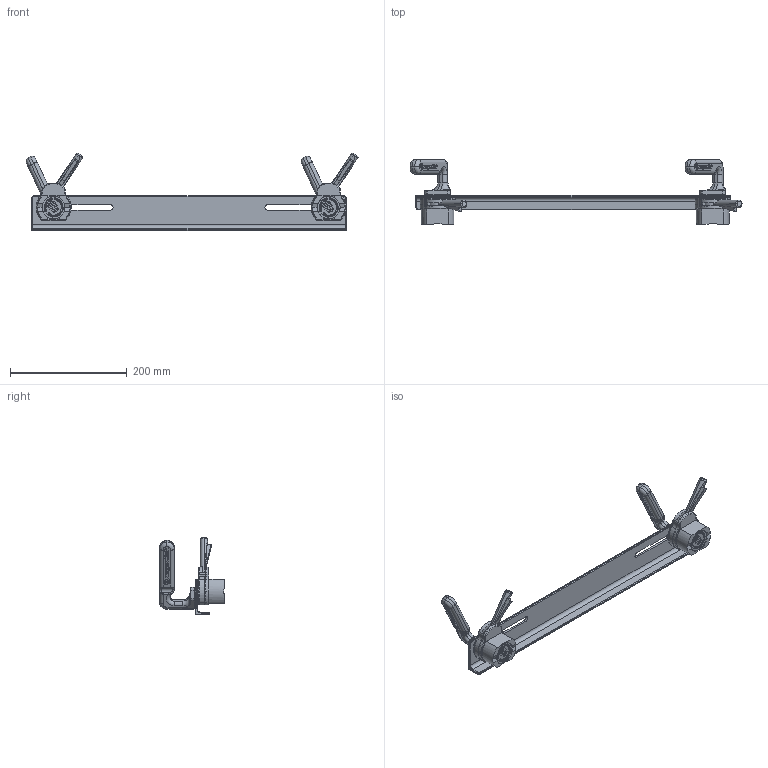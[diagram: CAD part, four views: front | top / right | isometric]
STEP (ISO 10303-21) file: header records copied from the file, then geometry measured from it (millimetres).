
FILE_DESCRIPTION (( 'STEP AP203' ), '1' );
FILE_NAME ('8000821_p.STEP', '2015-03-26T13:39:55', ( '' ), ( '' ), 'SwSTEP 2.0', 'SolidWorks 2013', '' );
FILE_SCHEMA (( 'CONFIG_CONTROL_DESIGN' ));
Length unit declared in the file: millimetre
Products named in the file (1): 8000821_p
Bounding box: 569.66 x 111.35 x 133.11 mm (x, y, z)
Surface area: 172625.1 mm2 (no closed solid volume)
Topology: 0 solids, 52 shells, 1061 faces, 5891 edges, 4691 vertices
Faces by surface type: plane 505, cylinder 231, bspline 191, torus 98, cone 36
Entity records: 74952 total; most frequent: CARTESIAN_POINT 33860, ORIENTED_EDGE 7850, DIRECTION 6978, EDGE_CURVE 5883, VERTEX_POINT 4691, VECTOR 3014, LINE 3014, AXIS2_PLACEMENT_3D 1982
